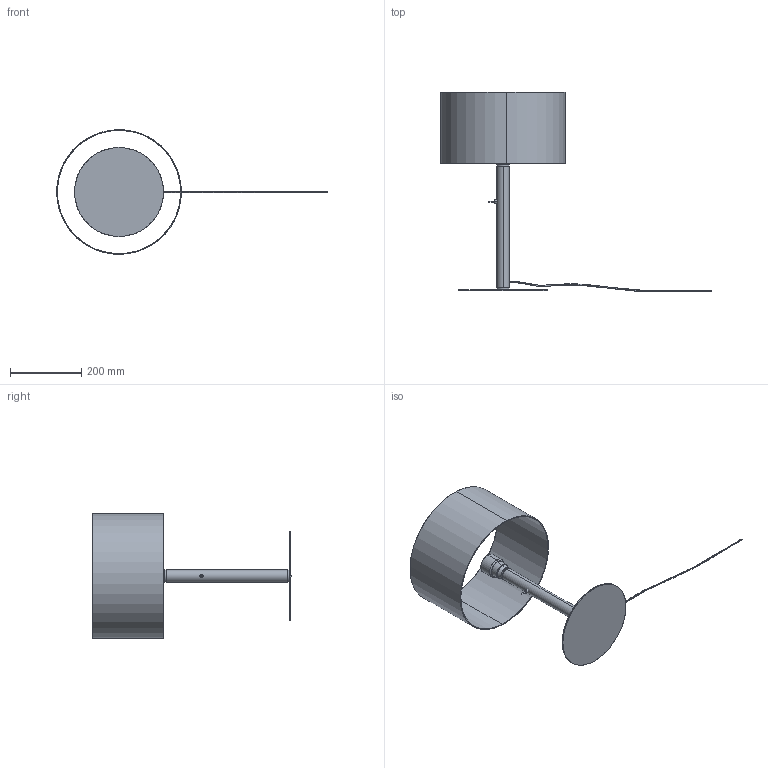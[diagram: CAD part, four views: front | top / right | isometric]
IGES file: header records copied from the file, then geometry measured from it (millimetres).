
Start section: SolidWorks IGES file using analytic representation for surfaces
Global section: file name: C:\Users\Agustin\Desktop\ENERO 2025\2D-3D\2D-3D COCO 1342\COCO S1342\COCO_S1342.IGS; native system: SolidWorks 2018; preprocessor: SolidWorks 2018; author: Agustin; date: 250117.152255; units: millimetre
Bounding box: 759.37 x 560.52 x 349.64 mm (x, y, z)
Surface area: 610235.2 mm2 (no closed solid volume)
Topology: 0 solids, 0 shells, 57 faces, 1552 edges, 1552 vertices
Faces by surface type: bspline 31, revolution 26
